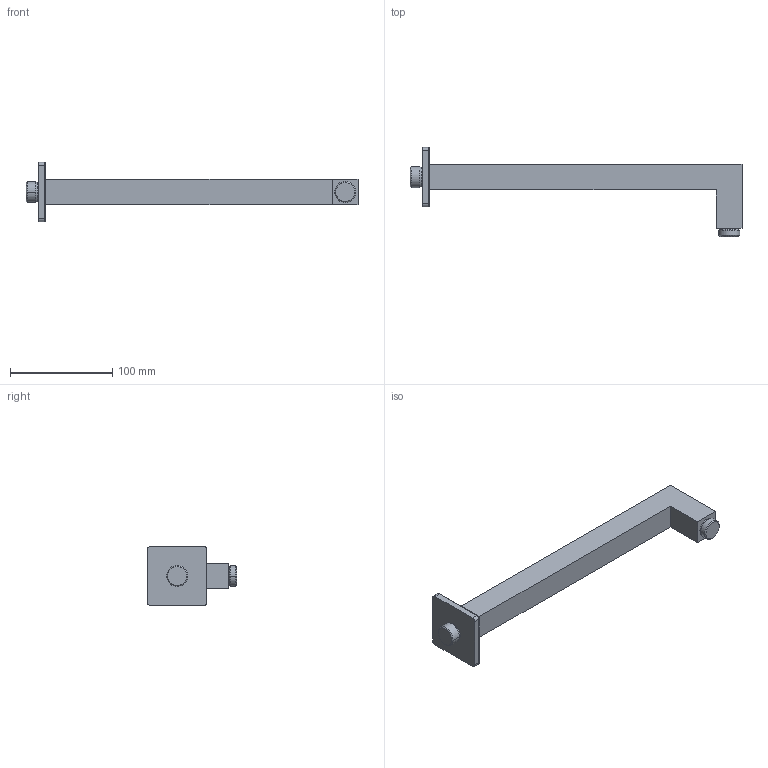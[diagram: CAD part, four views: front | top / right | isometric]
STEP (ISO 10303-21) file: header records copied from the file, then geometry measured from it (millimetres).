
FILE_DESCRIPTION((''),'2;1');
FILE_NAME('90951_SW0001','2021-07-05T11:17:26',('carloff'),(''),'CREO PARAMETRIC BY PTC INC, 2018100','CREO PARAMETRIC BY PTC INC, 2018100','');
FILE_SCHEMA(('CONFIG_CONTROL_DESIGN'));
Length unit declared in the file: millimetre
Products named in the file (1): 90951_SW0001
Bounding box: 324.5 x 87 x 58 mm (x, y, z)
Volume: 244171.4 mm3; surface area: 43866.2 mm2
Topology: 1 solids, 1 shells, 43 faces, 94 edges, 56 vertices
Faces by surface type: cylinder 16, plane 15, cone 8, torus 4
Entity records: 1206 total; most frequent: DIRECTION 220, CARTESIAN_POINT 193, ORIENTED_EDGE 188, EDGE_CURVE 94, AXIS2_PLACEMENT_3D 83, VERTEX_POINT 56, VECTOR 54, LINE 54
